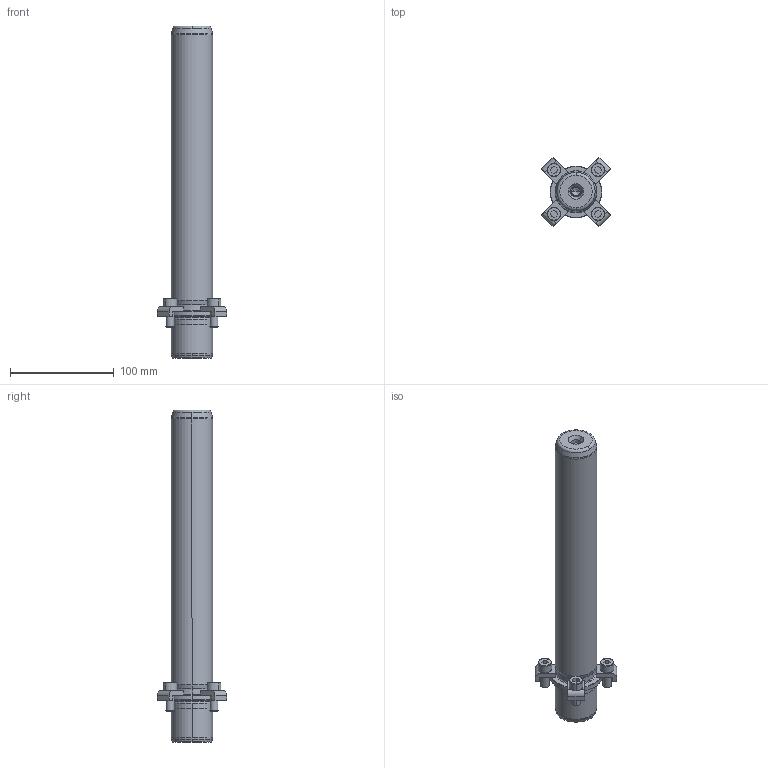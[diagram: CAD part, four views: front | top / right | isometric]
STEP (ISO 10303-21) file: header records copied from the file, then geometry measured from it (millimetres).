
FILE_DESCRIPTION((''),'2;1');
FILE_NAME('P21_040_280.stp','2008-12-23T11:27:30',(''),(''),'Mechanical Desktop 2009','Mechanical Desktop 2009',', , ');
FILE_SCHEMA(('CONFIG_CONTROL_DESIGN'));
Length unit declared in the file: millimetre
Products named in the file (2): Product; blmdl1
Assembly tree (1 placements, depth 2):
  Product
    blmdl1
Bounding box: 66.82 x 66.82 x 320 mm (x, y, z)
Volume: 412256.5 mm3; surface area: 54479.6 mm2
Topology: 9 solids, 9 shells, 203 faces, 501 edges, 325 vertices
Faces by surface type: plane 81, cylinder 56, cone 34, torus 16, bspline 16
Entity records: 6819 total; most frequent: CARTESIAN_POINT 1731, DIRECTION 1126, ORIENTED_EDGE 994, EDGE_CURVE 497, AXIS2_PLACEMENT_3D 440, VERTEX_POINT 325, CIRCLE 251, VECTOR 246
